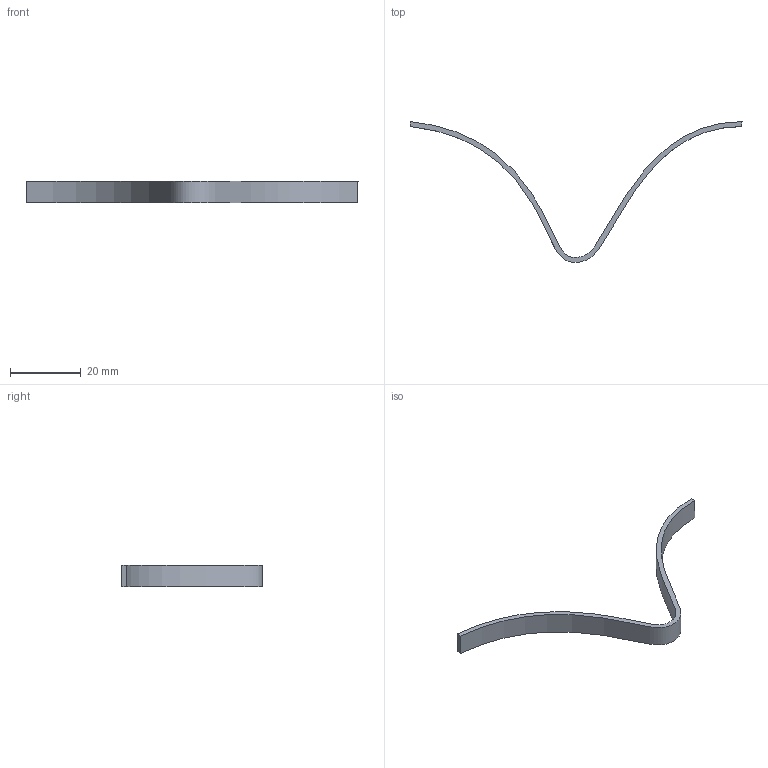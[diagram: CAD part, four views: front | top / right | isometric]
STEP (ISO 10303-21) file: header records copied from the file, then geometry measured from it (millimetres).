
FILE_DESCRIPTION(/* description */ ('STEP AP242 Edition 2','CAx-IF Rec.Pracs.---Representation and Presentation of Product Manufacturing Information (PMI)---4.0---2014-10-13','CAx-IF Rec.Pracs.---3D Tessellated Geometry---0.4---2014-09-14','2;1','CAx-IF Rec.Pracs.---User Defined Attributes---1.5---2016-08-15'),/* implementation_level */ '2;1');
FILE_NAME(/* name */ 'Final Build - Belt (2)',/* time_stamp */ '2026-08-31T23:26:07Z',/* author */ (''),/* organization */ (''),/* preprocessor_version */ 'ST-DEVELOPER v20',/* originating_system */ 'ONSHAPE BY PTC INC, 1.220',/* authorisation */ ' ');
FILE_SCHEMA (('AP242_MANAGED_MODEL_BASED_3D_ENGINEERING_MIM_LF { 1 0 10303 442 3 1 4 }'));
Length unit declared in the file: metre
Products named in the file (1): Belt
Bounding box: 93.79 x 39.78 x 6 mm (x, y, z)
Volume: 1115.9 mm3; surface area: 1911.3 mm2
Topology: 1 solids, 1 shells, 6 faces, 12 edges, 8 vertices
Faces by surface type: plane 4, bspline 2
Entity records: 332 total; most frequent: CARTESIAN_POINT 195, ORIENTED_EDGE 24, DIRECTION 18, EDGE_CURVE 12, VERTEX_POINT 8, LINE 8, VECTOR 8, EDGE_LOOP 6
